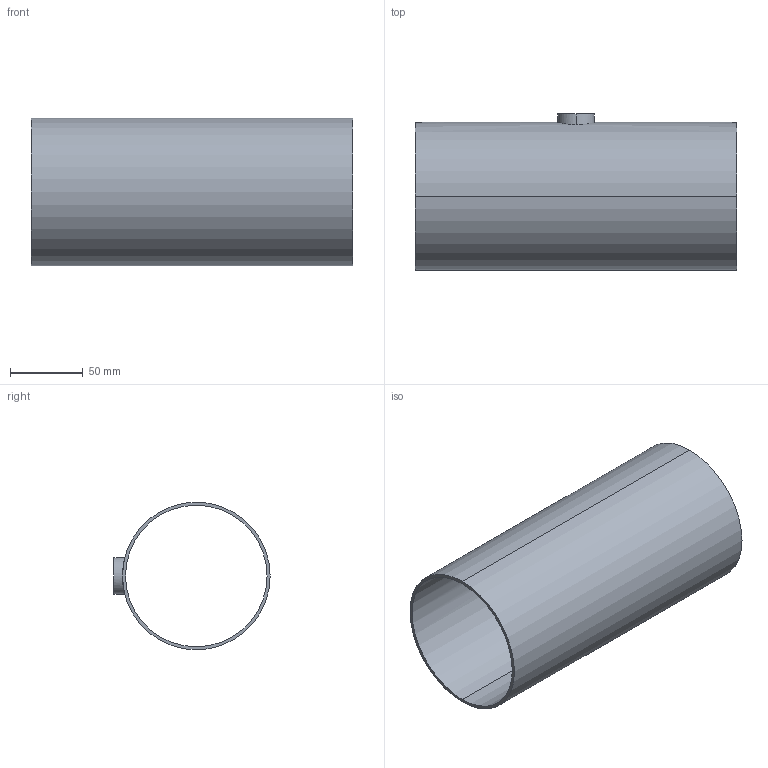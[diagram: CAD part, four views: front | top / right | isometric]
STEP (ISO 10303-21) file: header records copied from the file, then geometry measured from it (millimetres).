
FILE_DESCRIPTION (( 'STEP AP214' ), '1' );
FILE_NAME ('TEG7RS6L4.0x1.0-...STEP', '2016-05-24T10:59:16', ( 'eran' ), ( '' ), 'SwSTEP 2.0', 'SolidWorks 2016', '' );
FILE_SCHEMA (( 'AUTOMOTIVE_DESIGN' ));
Length unit declared in the file: millimetre
Products named in the file (1): TEG7RS6L4.0x1.0-..
Bounding box: 221.4 x 107.5 x 101.6 mm (x, y, z)
Volume: 146010.9 mm3; surface area: 140080.5 mm2
Topology: 1 solids, 1 shells, 11 faces, 24 edges, 16 vertices
Faces by surface type: cylinder 8, plane 3
Entity records: 544 total; most frequent: CARTESIAN_POINT 252, DIRECTION 56, ORIENTED_EDGE 48, AXIS2_PLACEMENT_3D 24, EDGE_CURVE 24, EDGE_LOOP 16, VERTEX_POINT 16, CIRCLE 12
